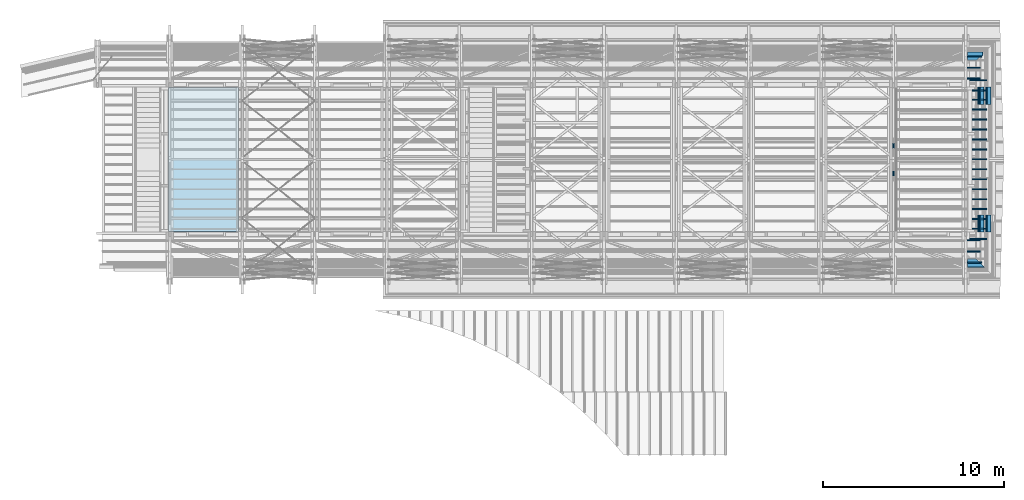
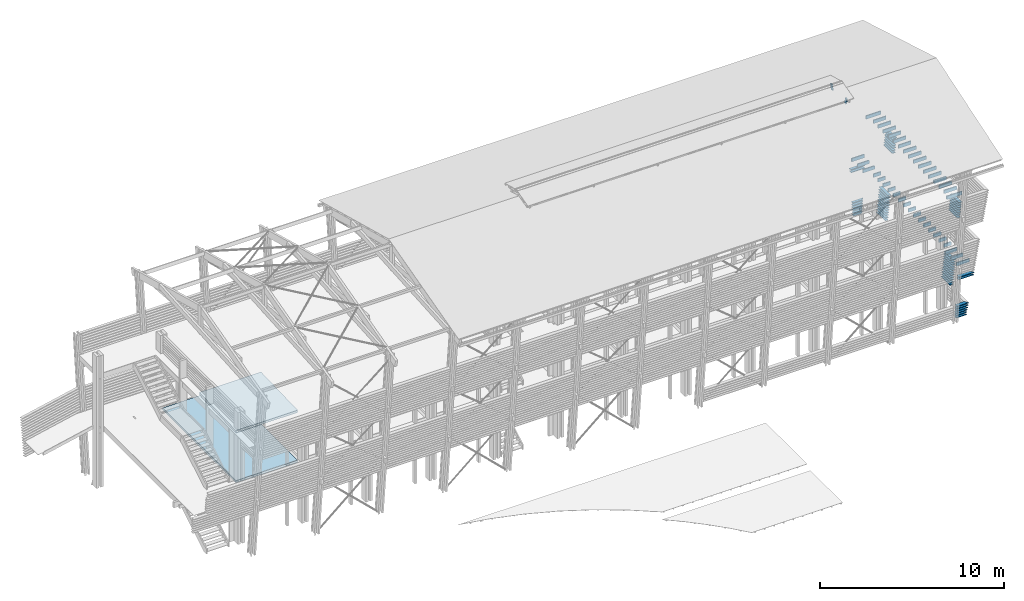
# One storey, part 30 of 48: 92 beams, 2 slabs.
"""IFC2X3 building model written with IfcOpenShell, lengths in metres."""

from ifc_helpers import new_model, si_unit, direction, frame, origin_with_axes, place, context, subcontext, project, spatial, faceted_brep, material, element, save


model = new_model("IFC2X3")

# Units and contexts
model_context = context("Model", 3, precision=1e-06, world=origin_with_axes(), true_north=direction((0.0, 1.0, 0.0)))
body_context = subcontext(model_context, "Body", "Model", "MODEL_VIEW")
ifc_project = project(units=[si_unit("LENGTHUNIT", "METRE"), si_unit("AREAUNIT", "SQUARE_METRE"), si_unit("VOLUMEUNIT", "CUBIC_METRE"), si_unit("PLANEANGLEUNIT", "RADIAN")], contexts=[model_context])

# Site, building, storey
site_placement = place(None, origin_with_axes())
site = spatial("IfcSite", under=ifc_project, at=site_placement, CompositionType="ELEMENT")
building_placement = place(site_placement, origin_with_axes())
building = spatial("IfcBuilding", under=site, at=building_placement, Name="Building 1", CompositionType="ELEMENT")
storey_placement = place(building_placement, origin_with_axes())
storey = spatial("IfcBuildingStorey", under=building, at=storey_placement, Name="Storey 1", CompositionType="ELEMENT", Elevation=0.0)

# Beams
ifc_material_1 = material(Name="Moabi")
beam_1_placement = place(storey_placement, frame((70.3884562, -185.2064881, 2.9410461), z_axis=(-0.9945219, 0.0, 0.1045285), x_axis=(0.0, -1.0, 0.0)))
element("IfcBeam", 1, at=beam_1_placement, inside=storey, material=ifc_material_1, Name="garde corp", context=body_context, shape_type="Brep", body=[
    faceted_brep([(0.9515817, 0.02, -0.1), (0.9515817, -0.02, -0.1), (0.0, -0.02, -0.1), (0.0, 0.02, -0.1), (0.9515817, -0.02, 0.1), (0.0, -0.02, 0.1), (0.9515817, 0.02, 0.1), (0.0, 0.02, 0.1)], [[[0, 1, 2, 3]], [[1, 4, 5, 2]], [[4, 6, 7, 5]], [[6, 0, 3, 7]], [[1, 0, 6, 4]], [[7, 3, 2, 5]]]),
])
ifc_material_2 = material(Name="GL28h")
beam_2_placement = place(storey_placement, frame((70.3711389, -194.898689, 4.139), z_axis=(0.0, 0.0, 1.0), x_axis=(-1.0, 0.0, 0.0)))
element("IfcBeam", 2, at=beam_2_placement, inside=storey, material=ifc_material_2, Name="Solive", context=body_context, shape_type="Brep", body=[
    faceted_brep([(0.8112891, 0.035, 0.11), (0.8112891, 0.035, -0.11), (0.0, 0.035, -0.11), (0.0, 0.035, 0.11), (0.8112891, -0.035, -0.11), (0.0, -0.035, -0.11), (0.8112891, -0.035, 0.11), (0.0, -0.035, 0.11)], [[[0, 1, 2, 3]], [[1, 4, 5, 2]], [[4, 6, 7, 5]], [[6, 0, 3, 7]], [[1, 0, 6, 4]], [[7, 3, 2, 5]]]),
])
beam_3_placement = place(storey_placement, frame((70.3011389, -185.8946519, 4.139), z_axis=(0.0, 0.0, 1.0), x_axis=(-1.0, 0.0, 0.0)))
element("IfcBeam", 3, at=beam_3_placement, inside=storey, material=ifc_material_2, Name="Solive", context=body_context, shape_type="Brep", body=[
    faceted_brep([(0.4613952, 0.035, 0.11), (0.4613952, 0.035, -0.11), (0.0, 0.035, -0.11), (0.0, 0.035, 0.11), (0.4613952, -0.035, -0.11), (0.0, -0.035, -0.11), (0.4613952, -0.035, 0.11), (0.0, -0.035, 0.11)], [[[0, 1, 2, 3]], [[1, 4, 5, 2]], [[4, 6, 7, 5]], [[6, 0, 3, 7]], [[1, 0, 6, 4]], [[7, 3, 2, 5]]]),
])
beam_4_placement = place(storey_placement, frame((70.2546598, -192.2580698, 1.6680127), z_axis=(-0.9945219, 0.0, 0.1045285), x_axis=(0.0, -1.0, 0.0)))
element("IfcBeam", 4, at=beam_4_placement, inside=storey, material=ifc_material_1, Name="garde corp", context=body_context, shape_type="Brep", body=[
    faceted_brep([(0.9515817, 0.02, -0.1), (0.9515817, -0.02, -0.1), (0.0, -0.02, -0.1), (0.0, 0.02, -0.1), (0.9515817, -0.02, 0.1), (0.0, -0.02, 0.1), (0.9515817, 0.02, 0.1), (0.0, 0.02, 0.1)], [[[0, 1, 2, 3]], [[1, 4, 5, 2]], [[4, 6, 7, 5]], [[6, 0, 3, 7]], [[1, 0, 6, 4]], [[7, 3, 2, 5]]]),
])
beam_5_placement = place(storey_placement, frame((70.3011389, -191.3946519, 4.139), z_axis=(0.0, 0.0, 1.0), x_axis=(-1.0, 0.0, 0.0)))
element("IfcBeam", 5, at=beam_5_placement, inside=storey, material=ifc_material_2, Name="Solive", context=body_context, shape_type="Brep", body=[
    faceted_brep([(0.4613952, 0.035, 0.11), (0.4613952, 0.035, -0.11), (0.0, 0.035, -0.11), (0.0, 0.035, 0.11), (0.4613952, -0.035, -0.11), (0.0, -0.035, -0.11), (0.4613952, -0.035, 0.11), (0.0, -0.035, 0.11)], [[[0, 1, 2, 3]], [[1, 4, 5, 2]], [[4, 6, 7, 5]], [[6, 0, 3, 7]], [[1, 0, 6, 4]], [[7, 3, 2, 5]]]),
])
for number, where, z_axis, x_axis, name in (
    (6, (70.3048334, -192.2580698, 2.1453832), (-0.9945219, 0.0, 0.1045285), (0.0, -1.0, 0.0), "garde corp"),
    (7, (70.2713843, -192.2580698, 1.8271362), (-0.9945219, 0.0, 0.1045285), (0.0, -1.0, 0.0), "garde corp"),
    (8, (70.7563964, -193.2096515, 6.4417178), (-0.9945219, 0.0, 0.1045285), (0.0, 1.0, 0.0), "garde corp"),
    (9, (70.7396718, -193.2096515, 6.2825943), (-0.9945219, 0.0, 0.1045285), (0.0, 1.0, 0.0), "garde corp"),
    (10, (70.7731209, -193.2096515, 6.6008413), (-0.9945219, 0.0, 0.1045285), (0.0, 1.0, 0.0), "garde corp"),
    (11, (70.6894982, -193.2096515, 5.8052238), (-0.9945219, 0.0, 0.1045285), (0.0, 1.0, 0.0), "garde corp"),
    (12, (70.7229473, -193.2096515, 6.1234708), (-0.9945219, 0.0, 0.1045285), (0.0, 1.0, 0.0), "garde corp"),
    (13, (70.3717316, -192.2580698, 2.7818772), (-0.9945219, 0.0, 0.1045285), (0.0, -1.0, 0.0), "garde corp"),
    (14, (70.321558, -192.2580698, 2.3045067), (-0.9945219, 0.0, 0.1045285), (0.0, -1.0, 0.0), "garde corp"),
    (15, (70.2881089, -192.2580698, 1.9862597), (-0.9945219, 0.0, 0.1045285), (0.0, -1.0, 0.0), "garde corp"),
    (16, (70.3550071, -192.2580698, 2.6227537), (-0.9945219, 0.0, 0.1045285), (0.0, -1.0, 0.0), "garde corp"),
    (17, (70.4051807, -192.2580698, 3.1001242), (-0.9945219, 0.0, 0.1045285), (0.0, -1.0, 0.0), "garde corp"),
    (18, (70.7062227, -193.2096515, 5.9643473), (-0.9945219, 0.0, 0.1045285), (0.0, 1.0, 0.0), "garde corp"),
):
    element("IfcBeam", number, at=place(storey_placement, frame(where, z_axis=z_axis, x_axis=x_axis)), inside=storey, material=ifc_material_1, Name=name, context=body_context, shape_type="Brep", body=[
        faceted_brep([(0.9515817, 0.02, -0.1), (0.9515817, -0.02, -0.1), (0.0, -0.02, -0.1), (0.0, 0.02, -0.1), (0.9515817, -0.02, 0.1), (0.0, -0.02, 0.1), (0.9515817, 0.02, 0.1), (0.0, 0.02, 0.1)], [[[0, 1, 2, 3]], [[1, 4, 5, 2]], [[4, 6, 7, 5]], [[6, 0, 3, 7]], [[1, 0, 6, 4]], [[7, 3, 2, 5]]]),
    ])
beam_6_placement = place(storey_placement, frame((70.2558552, -194.7763027, 0.7131627), z_axis=(0.0, 0.9945219, 0.1045285), x_axis=(-1.0, 0.0, 0.0)))
element("IfcBeam", 19, at=beam_6_placement, inside=storey, material=ifc_material_1, Name="garde corp", context=body_context, shape_type="Brep", body=[
    faceted_brep([(0.2030855, -0.02, 0.1), (0.1989044, 0.02, 0.1), (0.0, 0.02, -0.1), (0.0041811, -0.02, -0.1), (0.6843323, 0.02, 0.1), (0.6843323, 0.02, -0.1), (0.6843323, -0.02, 0.1), (0.6843323, -0.02, -0.1)], [[[0, 1, 2, 3]], [[2, 1, 4, 5]], [[1, 0, 6, 4]], [[0, 3, 7, 6]], [[3, 2, 5, 7]], [[7, 5, 4, 6]]]),
])
beam_7_placement = place(storey_placement, frame((70.3011389, -190.2946519, 4.139), z_axis=(0.0, 0.0, 1.0), x_axis=(-1.0, 0.0, 0.0)))
element("IfcBeam", 20, at=beam_7_placement, inside=storey, material=ifc_material_2, Name="Solive", context=body_context, shape_type="Brep", body=[
    faceted_brep([(0.4613952, 0.035, 0.11), (0.4613952, 0.035, -0.11), (0.0, 0.035, -0.11), (0.0, 0.035, 0.11), (0.4613952, -0.035, -0.11), (0.0, -0.035, -0.11), (0.4613952, -0.035, 0.11), (0.0, -0.035, 0.11)], [[[0, 1, 2, 3]], [[1, 4, 5, 2]], [[4, 6, 7, 5]], [[6, 0, 3, 7]], [[1, 0, 6, 4]], [[7, 3, 2, 5]]]),
])
beam_8_placement = place(storey_placement, frame((70.6436389, -193.0346519, 7.699), z_axis=(0.0, 0.0, 1.0), x_axis=(-1.0, 0.0, 0.0)))
element("IfcBeam", 21, at=beam_8_placement, inside=storey, material=ifc_material_2, Name="Solive", context=body_context, shape_type="Brep", body=[
    faceted_brep([(0.8038952, 0.035, 0.11), (0.8038952, 0.035, -0.11), (0.0, 0.035, -0.11), (0.0, 0.035, 0.11), (0.8038952, -0.035, -0.11), (0.0, -0.035, -0.11), (0.8038952, -0.035, 0.11), (0.0, -0.035, 0.11)], [[[0, 1, 2, 3]], [[1, 4, 5, 2]], [[4, 6, 7, 5]], [[6, 0, 3, 7]], [[1, 0, 6, 4]], [[7, 3, 2, 5]]]),
])
for number, where, z_axis, x_axis, name in (
    (22, (70.3048334, -185.2064881, 2.1454286), (-0.9945219, 0.0, 0.1045285), (0.0, -1.0, 0.0), "garde corp"),
    (23, (70.3550071, -185.2064881, 2.6227991), (-0.9945219, 0.0, 0.1045285), (0.0, -1.0, 0.0), "garde corp"),
    (24, (70.3717316, -185.2064881, 2.7819226), (-0.9945219, 0.0, 0.1045285), (0.0, -1.0, 0.0), "garde corp"),
    (25, (70.3382825, -185.2064881, 2.4636756), (-0.9945219, 0.0, 0.1045285), (0.0, -1.0, 0.0), "garde corp"),
    (26, (70.2713843, -185.2064881, 1.8271815), (-0.9945219, 0.0, 0.1045285), (0.0, -1.0, 0.0), "garde corp"),
    (27, (70.2881089, -185.2064881, 1.986305), (-0.9945219, 0.0, 0.1045285), (0.0, -1.0, 0.0), "garde corp"),
    (28, (70.2546598, -185.2064881, 1.668058), (-0.9945219, 0.0, 0.1045285), (0.0, -1.0, 0.0), "garde corp"),
    (29, (70.2379352, -185.2064881, 1.5089345), (-0.9945219, 0.0, 0.1045285), (0.0, -1.0, 0.0), "garde corp"),
    (30, (70.4051807, -185.2064881, 3.1001696), (-0.9945219, 0.0, 0.1045285), (0.0, -1.0, 0.0), "garde corp"),
    (31, (70.321558, -185.2064881, 2.3045521), (-0.9945219, 0.0, 0.1045285), (0.0, -1.0, 0.0), "garde corp"),
    (32, (70.7062227, -185.2064881, 5.9643926), (-0.9945219, 0.0, 0.1045285), (0.0, -1.0, 0.0), "garde corp"),
    (33, (70.6894982, -185.2064881, 5.8052691), (-0.9945219, 0.0, 0.1045285), (0.0, -1.0, 0.0), "garde corp"),
    (34, (70.7396718, -185.2064881, 6.2826396), (-0.9945219, 0.0, 0.1045285), (0.0, -1.0, 0.0), "garde corp"),
    (35, (70.7731209, -185.2064881, 6.6008866), (-0.9945219, 0.0, 0.1045285), (0.0, -1.0, 0.0), "garde corp"),
    (36, (70.7898455, -185.2064881, 6.7600101), (-0.9945219, 0.0, 0.1045285), (0.0, -1.0, 0.0), "garde corp"),
    (37, (70.7563964, -185.2064881, 6.4417631), (-0.9945219, 0.0, 0.1045285), (0.0, -1.0, 0.0), "garde corp"),
):
    element("IfcBeam", number, at=place(storey_placement, frame(where, z_axis=z_axis, x_axis=x_axis)), inside=storey, material=ifc_material_1, Name=name, context=body_context, shape_type="Brep", body=[
        faceted_brep([(0.9515817, 0.02, -0.1), (0.9515817, -0.02, -0.1), (0.0, -0.02, -0.1), (0.0, 0.02, -0.1), (0.9515817, -0.02, 0.1), (0.0, -0.02, 0.1), (0.9515817, 0.02, 0.1), (0.0, 0.02, 0.1)], [[[0, 1, 2, 3]], [[1, 4, 5, 2]], [[4, 6, 7, 5]], [[6, 0, 3, 7]], [[1, 0, 6, 4]], [[7, 3, 2, 5]]]),
    ])
beam_9_placement = place(storey_placement, frame((70.2558552, -183.6398368, 0.7131627), z_axis=(0.0, -0.9945219, 0.1045285), x_axis=(-1.0, 0.0, 0.0)))
element("IfcBeam", 38, at=beam_9_placement, inside=storey, material=ifc_material_1, Name="garde corp", context=body_context, shape_type="Brep", body=[
    faceted_brep([(0.0041811, 0.02, -0.1), (0.0, -0.02, -0.1), (0.1989044, -0.02, 0.1), (0.2030855, 0.02, 0.1), (0.6843323, -0.02, -0.1), (0.6843323, -0.02, 0.1), (0.6843323, 0.02, -0.1), (0.6843323, 0.02, 0.1)], [[[0, 1, 2, 3]], [[2, 1, 4, 5]], [[1, 0, 6, 4]], [[0, 3, 7, 6]], [[3, 2, 5, 7]], [[7, 5, 4, 6]]]),
])
beam_10_placement = place(storey_placement, frame((70.4484549, -183.3555194, 3.4182623), z_axis=(0.0, -0.9945219, 0.1045285), x_axis=(-1.0, 0.0, 0.0)))
element("IfcBeam", 39, at=beam_10_placement, inside=storey, material=ifc_material_1, Name="garde corp", context=body_context, shape_type="Brep", body=[
    faceted_brep([(0.876932, -0.02, 0.1), (0.876932, 0.02, 0.1), (0.0, 0.02, 0.1), (0.0, -0.02, 0.1), (0.876932, 0.02, -0.1), (0.0, 0.02, -0.1), (0.876932, -0.02, -0.1), (0.0, -0.02, -0.1)], [[[0, 1, 2, 3]], [[1, 4, 5, 2]], [[4, 6, 7, 5]], [[6, 0, 3, 7]], [[1, 0, 6, 4]], [[7, 3, 2, 5]]]),
])
beam_11_placement = place(storey_placement, frame((70.5234481, -195.0438956, 3.2591388), z_axis=(0.0, 0.9945219, 0.1045285), x_axis=(-1.0, 0.0, 0.0)))
element("IfcBeam", 40, at=beam_11_placement, inside=storey, material=ifc_material_1, Name="garde corp", context=body_context, shape_type="Brep", body=[
    faceted_brep([(0.2030855, -0.02, 0.1), (0.1989044, 0.02, 0.1), (0.0, 0.02, -0.1), (0.0041811, -0.02, -0.1), (0.9519252, 0.02, 0.1), (0.9519252, 0.02, -0.1), (0.9519252, -0.02, 0.1), (0.9519252, -0.02, -0.1)], [[[0, 1, 2, 3]], [[2, 1, 4, 5]], [[1, 0, 6, 4]], [[0, 3, 7, 6]], [[3, 2, 5, 7]], [[7, 5, 4, 6]]]),
])
beam_12_placement = place(storey_placement, frame((70.4249086, -183.3722439, 3.2591388), z_axis=(0.0, -0.9945219, 0.1045285), x_axis=(-1.0, 0.0, 0.0)))
element("IfcBeam", 41, at=beam_12_placement, inside=storey, material=ifc_material_1, Name="garde corp", context=body_context, shape_type="Brep", body=[
    faceted_brep([(0.8533857, -0.02, 0.1), (0.8533857, 0.02, 0.1), (0.0, 0.02, 0.1), (0.0, -0.02, 0.1), (0.8533857, 0.02, -0.1), (0.0, 0.02, -0.1), (0.8533857, -0.02, -0.1), (0.0, -0.02, -0.1)], [[[0, 1, 2, 3]], [[1, 4, 5, 2]], [[4, 6, 7, 5]], [[6, 0, 3, 7]], [[1, 0, 6, 4]], [[7, 3, 2, 5]]]),
])
beam_13_placement = place(storey_placement, frame((70.5401726, -195.0606202, 3.4182623), z_axis=(0.0, 0.9945219, 0.1045285), x_axis=(-1.0, 0.0, 0.0)))
element("IfcBeam", 42, at=beam_13_placement, inside=storey, material=ifc_material_1, Name="garde corp", context=body_context, shape_type="Brep", body=[
    faceted_brep([(0.2030855, -0.02, 0.1), (0.1989044, 0.02, 0.1), (0.0, 0.02, -0.1), (0.0041811, -0.02, -0.1), (0.9686497, 0.02, 0.1), (0.9686497, 0.02, -0.1), (0.9686497, -0.02, 0.1), (0.9686497, -0.02, -0.1)], [[[0, 1, 2, 3]], [[2, 1, 4, 5]], [[1, 0, 6, 4]], [[0, 3, 7, 6]], [[3, 2, 5, 7]], [[7, 5, 4, 6]]]),
])
beam_14_placement = place(storey_placement, frame((70.3060289, -194.8264764, 1.1905332), z_axis=(0.0, 0.9945219, 0.1045285), x_axis=(-1.0, 0.0, 0.0)))
element("IfcBeam", 43, at=beam_14_placement, inside=storey, material=ifc_material_1, Name="garde corp", context=body_context, shape_type="Brep", body=[
    faceted_brep([(0.2030855, -0.02, 0.1), (0.1989044, 0.02, 0.1), (0.0, 0.02, -0.1), (0.0041811, -0.02, -0.1), (0.734506, 0.02, 0.1), (0.734506, 0.02, -0.1), (0.734506, -0.02, 0.1), (0.734506, -0.02, -0.1)], [[[0, 1, 2, 3]], [[2, 1, 4, 5]], [[1, 0, 6, 4]], [[0, 3, 7, 6]], [[3, 2, 5, 7]], [[7, 5, 4, 6]]]),
])
beam_15_placement = place(storey_placement, frame((70.2391306, -194.7595782, 0.5540392), z_axis=(0.0, 0.9945219, 0.1045285), x_axis=(-1.0, 0.0, 0.0)))
element("IfcBeam", 44, at=beam_15_placement, inside=storey, material=ifc_material_1, Name="garde corp", context=body_context, shape_type="Brep", body=[
    faceted_brep([(0.2030855, -0.02, 0.1), (0.1989044, 0.02, 0.1), (0.0, 0.02, -0.1), (0.0041811, -0.02, -0.1), (0.6676077, 0.02, 0.1), (0.6676077, 0.02, -0.1), (0.6676077, -0.02, 0.1), (0.6676077, -0.02, -0.1)], [[[0, 1, 2, 3]], [[2, 1, 4, 5]], [[1, 0, 6, 4]], [[0, 3, 7, 6]], [[3, 2, 5, 7]], [[7, 5, 4, 6]]]),
])
beam_16_placement = place(storey_placement, frame((70.2725797, -194.7930273, 0.8722862), z_axis=(0.0, 0.9945219, 0.1045285), x_axis=(-1.0, 0.0, 0.0)))
element("IfcBeam", 45, at=beam_16_placement, inside=storey, material=ifc_material_1, Name="garde corp", context=body_context, shape_type="Brep", body=[
    faceted_brep([(0.2030855, -0.02, 0.1), (0.1989044, 0.02, 0.1), (0.0, 0.02, -0.1), (0.0041811, -0.02, -0.1), (0.7010569, 0.02, 0.1), (0.7010569, 0.02, -0.1), (0.7010569, -0.02, 0.1), (0.7010569, -0.02, -0.1)], [[[0, 1, 2, 3]], [[2, 1, 4, 5]], [[1, 0, 6, 4]], [[0, 3, 7, 6]], [[3, 2, 5, 7]], [[7, 5, 4, 6]]]),
])
beam_17_placement = place(storey_placement, frame((70.3060289, -183.5896631, 1.1905332), z_axis=(0.0, -0.9945219, 0.1045285), x_axis=(-1.0, 0.0, 0.0)))
element("IfcBeam", 46, at=beam_17_placement, inside=storey, material=ifc_material_1, Name="garde corp", context=body_context, shape_type="Brep", body=[
    faceted_brep([(0.0041811, 0.02, -0.1), (0.0, -0.02, -0.1), (0.1989044, -0.02, 0.1), (0.2030855, 0.02, 0.1), (0.734506, -0.02, -0.1), (0.734506, -0.02, 0.1), (0.734506, 0.02, -0.1), (0.734506, 0.02, 0.1)], [[[0, 1, 2, 3]], [[2, 1, 4, 5]], [[1, 0, 6, 4]], [[0, 3, 7, 6]], [[3, 2, 5, 7]], [[7, 5, 4, 6]]]),
])
beam_18_placement = place(storey_placement, frame((70.7229473, -185.2064881, 6.1235161), z_axis=(-0.9945219, 0.0, 0.1045285), x_axis=(0.0, -1.0, 0.0)))
element("IfcBeam", 47, at=beam_18_placement, inside=storey, material=ifc_material_1, Name="garde corp", context=body_context, shape_type="Brep", body=[
    faceted_brep([(0.9515817, 0.02, -0.1), (0.9515817, -0.02, -0.1), (0.0, -0.02, -0.1), (0.0, 0.02, -0.1), (0.9515817, -0.02, 0.1), (0.0, -0.02, 0.1), (0.9515817, 0.02, 0.1), (0.0, 0.02, 0.1)], [[[0, 1, 2, 3]], [[1, 4, 5, 2]], [[4, 6, 7, 5]], [[6, 0, 3, 7]], [[1, 0, 6, 4]], [[7, 3, 2, 5]]]),
])
beam_19_placement = place(storey_placement, frame((70.3227534, -194.843201, 1.3496567), z_axis=(0.0, 0.9945219, 0.1045285), x_axis=(-1.0, 0.0, 0.0)))
element("IfcBeam", 48, at=beam_19_placement, inside=storey, material=ifc_material_1, Name="garde corp", context=body_context, shape_type="Brep", body=[
    faceted_brep([(0.2030855, -0.02, 0.1), (0.1989044, 0.02, 0.1), (0.0, 0.02, -0.1), (0.0041811, -0.02, -0.1), (0.7512305, 0.02, 0.1), (0.7512305, 0.02, -0.1), (0.7512305, -0.02, 0.1), (0.7512305, -0.02, -0.1)], [[[0, 1, 2, 3]], [[2, 1, 4, 5]], [[1, 0, 6, 4]], [[0, 3, 7, 6]], [[3, 2, 5, 7]], [[7, 5, 4, 6]]]),
])
beam_20_placement = place(storey_placement, frame((70.3011389, -193.0346519, 4.139), z_axis=(0.0, 0.0, 1.0), x_axis=(-1.0, 0.0, 0.0)))
element("IfcBeam", 49, at=beam_20_placement, inside=storey, material=ifc_material_2, Name="Solive", context=body_context, shape_type="Brep", body=[
    faceted_brep([(0.4613952, 0.035, 0.11), (0.4613952, 0.035, -0.11), (0.0, 0.035, -0.11), (0.0, 0.035, 0.11), (0.4613952, -0.035, -0.11), (0.0, -0.035, -0.11), (0.4613952, -0.035, 0.11), (0.0, -0.035, 0.11)], [[[0, 1, 2, 3]], [[1, 4, 5, 2]], [[4, 6, 7, 5]], [[6, 0, 3, 7]], [[1, 0, 6, 4]], [[7, 3, 2, 5]]]),
])
beam_21_placement = place(storey_placement, frame((70.3227534, -183.5729386, 1.3496567), z_axis=(0.0, -0.9945219, 0.1045285), x_axis=(-1.0, 0.0, 0.0)))
element("IfcBeam", 50, at=beam_21_placement, inside=storey, material=ifc_material_1, Name="garde corp", context=body_context, shape_type="Brep", body=[
    faceted_brep([(0.0041811, 0.02, -0.1), (0.0, -0.02, -0.1), (0.1989044, -0.02, 0.1), (0.2030855, 0.02, 0.1), (0.7512305, -0.02, -0.1), (0.7512305, -0.02, 0.1), (0.7512305, 0.02, -0.1), (0.7512305, 0.02, 0.1)], [[[0, 1, 2, 3]], [[2, 1, 4, 5]], [[1, 0, 6, 4]], [[0, 3, 7, 6]], [[3, 2, 5, 7]], [[7, 5, 4, 6]]]),
])
beam_22_placement = place(storey_placement, frame((70.2893043, -194.8097519, 1.0314097), z_axis=(0.0, 0.9945219, 0.1045285), x_axis=(-1.0, 0.0, 0.0)))
element("IfcBeam", 51, at=beam_22_placement, inside=storey, material=ifc_material_1, Name="garde corp", context=body_context, shape_type="Brep", body=[
    faceted_brep([(0.2030855, -0.02, 0.1), (0.1989044, 0.02, 0.1), (0.0, 0.02, -0.1), (0.0041811, -0.02, -0.1), (0.7177814, 0.02, 0.1), (0.7177814, 0.02, -0.1), (0.7177814, -0.02, 0.1), (0.7177814, -0.02, -0.1)], [[[0, 1, 2, 3]], [[2, 1, 4, 5]], [[1, 0, 6, 4]], [[0, 3, 7, 6]], [[3, 2, 5, 7]], [[7, 5, 4, 6]]]),
])
beam_23_placement = place(storey_placement, frame((70.2725797, -183.6231123, 0.8722862), z_axis=(0.0, -0.9945219, 0.1045285), x_axis=(-1.0, 0.0, 0.0)))
element("IfcBeam", 52, at=beam_23_placement, inside=storey, material=ifc_material_1, Name="garde corp", context=body_context, shape_type="Brep", body=[
    faceted_brep([(0.0041811, 0.02, -0.1), (0.0, -0.02, -0.1), (0.1989044, -0.02, 0.1), (0.2030855, 0.02, 0.1), (0.7010569, -0.02, -0.1), (0.7010569, -0.02, 0.1), (0.7010569, 0.02, -0.1), (0.7010569, 0.02, 0.1)], [[[0, 1, 2, 3]], [[2, 1, 4, 5]], [[1, 0, 6, 4]], [[0, 3, 7, 6]], [[3, 2, 5, 7]], [[7, 5, 4, 6]]]),
])
for number, where, z_axis, x_axis, name in (
    (53, (70.3884562, -192.2580698, 2.9410007), (-0.9945219, 0.0, 0.1045285), (0.0, -1.0, 0.0), "garde corp"),
    (54, (70.2379352, -192.2580698, 1.5088892), (-0.9945219, 0.0, 0.1045285), (0.0, -1.0, 0.0), "garde corp"),
    (55, (70.7898455, -192.2580698, 6.7599648), (-0.9945219, 0.0, 0.1045285), (0.0, -1.0, 0.0), "garde corp"),
    (56, (70.3382825, -192.2580698, 2.4636302), (-0.9945219, 0.0, 0.1045285), (0.0, -1.0, 0.0), "garde corp"),
):
    element("IfcBeam", number, at=place(storey_placement, frame(where, z_axis=z_axis, x_axis=x_axis)), inside=storey, material=ifc_material_1, Name=name, context=body_context, shape_type="Brep", body=[
        faceted_brep([(0.9515817, 0.02, -0.1), (0.9515817, -0.02, -0.1), (0.0, -0.02, -0.1), (0.0, 0.02, -0.1), (0.9515817, -0.02, 0.1), (0.0, -0.02, 0.1), (0.9515817, 0.02, 0.1), (0.0, 0.02, 0.1)], [[[0, 1, 2, 3]], [[1, 4, 5, 2]], [[4, 6, 7, 5]], [[6, 0, 3, 7]], [[1, 0, 6, 4]], [[7, 3, 2, 5]]]),
    ])
beam_24_placement = place(storey_placement, frame((70.2893043, -183.6063877, 1.0314097), z_axis=(0.0, -0.9945219, 0.1045285), x_axis=(-1.0, 0.0, 0.0)))
element("IfcBeam", 57, at=beam_24_placement, inside=storey, material=ifc_material_1, Name="garde corp", context=body_context, shape_type="Brep", body=[
    faceted_brep([(0.0041811, 0.02, -0.1), (0.0, -0.02, -0.1), (0.1989044, -0.02, 0.1), (0.2030855, 0.02, 0.1), (0.7177814, -0.02, -0.1), (0.7177814, -0.02, 0.1), (0.7177814, 0.02, -0.1), (0.7177814, 0.02, 0.1)], [[[0, 1, 2, 3]], [[2, 1, 4, 5]], [[1, 0, 6, 4]], [[0, 3, 7, 6]], [[3, 2, 5, 7]], [[7, 5, 4, 6]]]),
])
for number, where, z_axis, x_axis in (
    (58, (70.3011389, -186.4446519, 4.139), (0.0, 0.0, 1.0), (-1.0, 0.0, 0.0)),
    (59, (70.3011389, -188.0946519, 4.139), (0.0, 0.0, 1.0), (-1.0, 0.0, 0.0)),
):
    element("IfcBeam", number, at=place(storey_placement, frame(where, z_axis=z_axis, x_axis=x_axis)), inside=storey, material=ifc_material_2, Name="Solive", context=body_context, shape_type="Brep", body=[
        faceted_brep([(0.4613952, 0.035, 0.11), (0.4613952, 0.035, -0.11), (0.0, 0.035, -0.11), (0.0, 0.035, 0.11), (0.4613952, -0.035, -0.11), (0.0, -0.035, -0.11), (0.4613952, -0.035, 0.11), (0.0, -0.035, 0.11)], [[[0, 1, 2, 3]], [[1, 4, 5, 2]], [[4, 6, 7, 5]], [[6, 0, 3, 7]], [[1, 0, 6, 4]], [[7, 3, 2, 5]]]),
    ])
beam_25_placement = place(storey_placement, frame((70.6436389, -193.5946515, 7.699), z_axis=(0.0, 0.0, 1.0), x_axis=(-1.0, 0.0, 0.0)))
element("IfcBeam", 60, at=beam_25_placement, inside=storey, material=ifc_material_2, Name="Solive", context=body_context, shape_type="Brep", body=[
    faceted_brep([(0.9437891, 0.035, 0.11), (0.9437891, 0.035, -0.11), (0.0, 0.035, -0.11), (0.0, 0.035, 0.11), (0.9437891, -0.035, -0.11), (0.0, -0.035, -0.11), (0.9437891, -0.035, 0.11), (0.0, -0.035, 0.11)], [[[0, 1, 2, 3]], [[1, 4, 5, 2]], [[4, 6, 7, 5]], [[6, 0, 3, 7]], [[1, 0, 6, 4]], [[7, 3, 2, 5]]]),
])
beam_26_placement = place(storey_placement, frame((65.4897437, -189.9293315, 13.2180038), z_axis=(0.0, 0.9659258, 0.2588191), x_axis=(0.0, -0.2588191, 0.9659258)))
element("IfcBeam", 61, at=beam_26_placement, inside=storey, material=ifc_material_2, Name="potelet", context=body_context, shape_type="Brep", body=[
    faceted_brep([(0.38, -0.035, 0.084), (0.38, 0.035, 0.084), (0.0, 0.035, 0.084), (0.0, -0.035, 0.084), (0.38, 0.035, -0.084), (0.0, 0.035, -0.084), (0.38, -0.035, -0.084), (0.0, -0.035, -0.084)], [[[0, 1, 2, 3]], [[1, 4, 5, 2]], [[4, 6, 7, 5]], [[6, 0, 3, 7]], [[1, 0, 6, 4]], [[7, 3, 2, 5]]]),
])
beam_27_placement = place(storey_placement, frame((70.6436389, -191.3946519, 7.699), z_axis=(0.0, 0.0, 1.0), x_axis=(-1.0, 0.0, 0.0)))
element("IfcBeam", 62, at=beam_27_placement, inside=storey, material=ifc_material_2, Name="Solive", context=body_context, shape_type="Brep", body=[
    faceted_brep([(0.8038952, 0.035, 0.11), (0.8038952, 0.035, -0.11), (0.0, 0.035, -0.11), (0.0, 0.035, 0.11), (0.8038952, -0.035, -0.11), (0.0, -0.035, -0.11), (0.8038952, -0.035, 0.11), (0.0, -0.035, 0.11)], [[[0, 1, 2, 3]], [[1, 4, 5, 2]], [[4, 6, 7, 5]], [[6, 0, 3, 7]], [[1, 0, 6, 4]], [[7, 3, 2, 5]]]),
])
beam_28_placement = place(storey_placement, frame((70.2391306, -183.6565614, 0.5540392), z_axis=(0.0, -0.9945219, 0.1045285), x_axis=(-1.0, 0.0, 0.0)))
element("IfcBeam", 63, at=beam_28_placement, inside=storey, material=ifc_material_1, Name="garde corp", context=body_context, shape_type="Brep", body=[
    faceted_brep([(0.0041811, 0.02, -0.1), (0.0, -0.02, -0.1), (0.1989044, -0.02, 0.1), (0.2030855, 0.02, 0.1), (0.6676077, -0.02, -0.1), (0.6676077, -0.02, 0.1), (0.6676077, 0.02, -0.1), (0.6676077, 0.02, 0.1)], [[[0, 1, 2, 3]], [[2, 1, 4, 5]], [[1, 0, 6, 4]], [[0, 3, 7, 6]], [[3, 2, 5, 7]], [[7, 5, 4, 6]]]),
])
beam_29_placement = place(storey_placement, frame((70.3011389, -189.1946519, 4.139), z_axis=(0.0, 0.0, 1.0), x_axis=(-1.0, 0.0, 0.0)))
element("IfcBeam", 64, at=beam_29_placement, inside=storey, material=ifc_material_2, Name="Solive", context=body_context, shape_type="Brep", body=[
    faceted_brep([(0.4613952, 0.035, 0.11), (0.4613952, 0.035, -0.11), (0.0, 0.035, -0.11), (0.0, 0.035, 0.11), (0.4613952, -0.035, -0.11), (0.0, -0.035, -0.11), (0.4613952, -0.035, 0.11), (0.0, -0.035, 0.11)], [[[0, 1, 2, 3]], [[1, 4, 5, 2]], [[4, 6, 7, 5]], [[6, 0, 3, 7]], [[1, 0, 6, 4]], [[7, 3, 2, 5]]]),
])
for number, where, z_axis, x_axis in (
    (65, (70.3011389, -193.6646515, 4.139), (0.0, 0.0, 1.0), (-1.0, 0.0, 0.0)),
    (66, (70.3011389, -184.7314881, 4.139), (0.0, 0.0, 1.0), (-1.0, 0.0, 0.0)),
):
    element("IfcBeam", number, at=place(storey_placement, frame(where, z_axis=z_axis, x_axis=x_axis)), inside=storey, material=ifc_material_2, Name="Solive", context=body_context, shape_type="Brep", body=[
        faceted_brep([(0.7413952, 0.035, 0.11), (0.7413952, 0.035, -0.11), (0.0, 0.035, -0.11), (0.0, 0.035, 0.11), (0.7413952, -0.035, -0.11), (0.0, -0.035, -0.11), (0.7413952, -0.035, 0.11), (0.0, -0.035, 0.11)], [[[0, 1, 2, 3]], [[1, 4, 5, 2]], [[4, 6, 7, 5]], [[6, 0, 3, 7]], [[1, 0, 6, 4]], [[7, 3, 2, 5]]]),
    ])
beam_30_placement = place(storey_placement, frame((70.6436389, -184.8214881, 7.699), z_axis=(0.0, 0.0, 1.0), x_axis=(-1.0, 0.0, 0.0)))
element("IfcBeam", 67, at=beam_30_placement, inside=storey, material=ifc_material_2, Name="Solive", context=body_context, shape_type="Brep", body=[
    faceted_brep([(0.9437891, 0.035, 0.11), (0.9437891, 0.035, -0.11), (0.0, 0.035, -0.11), (0.0, 0.035, 0.11), (0.9437891, -0.035, -0.11), (0.0, -0.035, -0.11), (0.9437891, -0.035, 0.11), (0.0, -0.035, 0.11)], [[[0, 1, 2, 3]], [[1, 4, 5, 2]], [[4, 6, 7, 5]], [[6, 0, 3, 7]], [[1, 0, 6, 4]], [[7, 3, 2, 5]]]),
])
for number, where, z_axis, x_axis in (
    (68, (70.3011389, -192.4946519, 4.139), (0.0, 0.0, 1.0), (-1.0, 0.0, 0.0)),
    (69, (70.3011389, -191.9446519, 4.139), (0.0, 0.0, 1.0), (-1.0, 0.0, 0.0)),
    (70, (70.3011389, -188.6446519, 4.139), (0.0, 0.0, 1.0), (-1.0, 0.0, 0.0)),
    (71, (70.3011389, -189.7446519, 4.139), (0.0, 0.0, 1.0), (-1.0, 0.0, 0.0)),
    (72, (70.3011389, -190.8446519, 4.139), (0.0, 0.0, 1.0), (-1.0, 0.0, 0.0)),
):
    element("IfcBeam", number, at=place(storey_placement, frame(where, z_axis=z_axis, x_axis=x_axis)), inside=storey, material=ifc_material_2, Name="Solive", context=body_context, shape_type="Brep", body=[
        faceted_brep([(0.4613952, 0.035, 0.11), (0.4613952, 0.035, -0.11), (0.0, 0.035, -0.11), (0.0, 0.035, 0.11), (0.4613952, -0.035, -0.11), (0.0, -0.035, -0.11), (0.4613952, -0.035, 0.11), (0.0, -0.035, 0.11)], [[[0, 1, 2, 3]], [[1, 4, 5, 2]], [[4, 6, 7, 5]], [[6, 0, 3, 7]], [[1, 0, 6, 4]], [[7, 3, 2, 5]]]),
    ])
for number, where, z_axis, x_axis in (
    (73, (70.6436389, -190.2946519, 7.699), (0.0, 0.0, 1.0), (-1.0, 0.0, 0.0)),
    (74, (70.6436389, -185.8946519, 7.699), (0.0, 0.0, 1.0), (-1.0, 0.0, 0.0)),
):
    element("IfcBeam", number, at=place(storey_placement, frame(where, z_axis=z_axis, x_axis=x_axis)), inside=storey, material=ifc_material_2, Name="Solive", context=body_context, shape_type="Brep", body=[
        faceted_brep([(0.8038952, 0.035, 0.11), (0.8038952, 0.035, -0.11), (0.0, 0.035, -0.11), (0.0, 0.035, 0.11), (0.8038952, -0.035, -0.11), (0.0, -0.035, -0.11), (0.8038952, -0.035, 0.11), (0.0, -0.035, 0.11)], [[[0, 1, 2, 3]], [[1, 4, 5, 2]], [[4, 6, 7, 5]], [[6, 0, 3, 7]], [[1, 0, 6, 4]], [[7, 3, 2, 5]]]),
    ])
beam_31_placement = place(storey_placement, frame((65.4897437, -188.4867808, 13.2181055), z_axis=(0.0, -0.9659258, 0.2588191), x_axis=(0.0, 0.2588191, 0.9659258)))
element("IfcBeam", 75, at=beam_31_placement, inside=storey, material=ifc_material_2, Name="potelet", context=body_context, shape_type="Brep", body=[
    faceted_brep([(0.38, -0.035, 0.084), (0.38, 0.035, 0.084), (0.0, 0.035, 0.084), (0.0, -0.035, 0.084), (0.38, 0.035, -0.084), (0.0, 0.035, -0.084), (0.38, -0.035, -0.084), (0.0, -0.035, -0.084)], [[[0, 1, 2, 3]], [[1, 4, 5, 2]], [[4, 6, 7, 5]], [[6, 0, 3, 7]], [[1, 0, 6, 4]], [[7, 3, 2, 5]]]),
])
beam_32_placement = place(storey_placement, frame((70.3011389, -187.5446519, 4.139), z_axis=(0.0, 0.0, 1.0), x_axis=(-1.0, 0.0, 0.0)))
element("IfcBeam", 76, at=beam_32_placement, inside=storey, material=ifc_material_2, Name="Solive", context=body_context, shape_type="Brep", body=[
    faceted_brep([(0.4613952, 0.035, 0.11), (0.4613952, 0.035, -0.11), (0.0, 0.035, -0.11), (0.0, 0.035, 0.11), (0.4613952, -0.035, -0.11), (0.0, -0.035, -0.11), (0.4613952, -0.035, 0.11), (0.0, -0.035, 0.11)], [[[0, 1, 2, 3]], [[1, 4, 5, 2]], [[4, 6, 7, 5]], [[6, 0, 3, 7]], [[1, 0, 6, 4]], [[7, 3, 2, 5]]]),
])
beam_33_placement = place(storey_placement, frame((70.6436389, -191.9446519, 7.699), z_axis=(0.0, 0.0, 1.0), x_axis=(-1.0, 0.0, 0.0)))
element("IfcBeam", 77, at=beam_33_placement, inside=storey, material=ifc_material_2, Name="Solive", context=body_context, shape_type="Brep", body=[
    faceted_brep([(0.8038952, 0.035, 0.11), (0.8038952, 0.035, -0.11), (0.0, 0.035, -0.11), (0.0, 0.035, 0.11), (0.8038952, -0.035, -0.11), (0.0, -0.035, -0.11), (0.8038952, -0.035, 0.11), (0.0, -0.035, 0.11)], [[[0, 1, 2, 3]], [[1, 4, 5, 2]], [[4, 6, 7, 5]], [[6, 0, 3, 7]], [[1, 0, 6, 4]], [[7, 3, 2, 5]]]),
])
for number, where, z_axis, x_axis in (
    (78, (70.3011389, -185.3819004, 4.139), (0.0, 0.0, 1.0), (-1.0, 0.0, 0.0)),
    (79, (70.3011389, -186.9946519, 4.139), (0.0, 0.0, 1.0), (-1.0, 0.0, 0.0)),
):
    element("IfcBeam", number, at=place(storey_placement, frame(where, z_axis=z_axis, x_axis=x_axis)), inside=storey, material=ifc_material_2, Name="Solive", context=body_context, shape_type="Brep", body=[
        faceted_brep([(0.4613952, 0.035, 0.11), (0.4613952, 0.035, -0.11), (0.0, 0.035, -0.11), (0.0, 0.035, 0.11), (0.4613952, -0.035, -0.11), (0.0, -0.035, -0.11), (0.4613952, -0.035, 0.11), (0.0, -0.035, 0.11)], [[[0, 1, 2, 3]], [[1, 4, 5, 2]], [[4, 6, 7, 5]], [[6, 0, 3, 7]], [[1, 0, 6, 4]], [[7, 3, 2, 5]]]),
    ])
beam_34_placement = place(storey_placement, frame((70.6436389, -190.8446519, 7.699), z_axis=(0.0, 0.0, 1.0), x_axis=(-1.0, 0.0, 0.0)))
element("IfcBeam", 80, at=beam_34_placement, inside=storey, material=ifc_material_2, Name="Solive", context=body_context, shape_type="Brep", body=[
    faceted_brep([(0.8038952, 0.035, 0.11), (0.8038952, 0.035, -0.11), (0.0, 0.035, -0.11), (0.0, 0.035, 0.11), (0.8038952, -0.035, -0.11), (0.0, -0.035, -0.11), (0.8038952, -0.035, 0.11), (0.0, -0.035, 0.11)], [[[0, 1, 2, 3]], [[1, 4, 5, 2]], [[4, 6, 7, 5]], [[6, 0, 3, 7]], [[1, 0, 6, 4]], [[7, 3, 2, 5]]]),
])
beam_35_placement = place(storey_placement, frame((70.3010328, -194.2816702, 4.139), z_axis=(0.0, 0.0, 1.0), x_axis=(-1.0, 0.0, 0.0)))
element("IfcBeam", 81, at=beam_35_placement, inside=storey, material=ifc_material_2, Name="Solive", context=body_context, shape_type="Brep", body=[
    faceted_brep([(0.7411829, 0.035, 0.11), (0.7411829, 0.035, -0.11), (0.0, 0.035, -0.11), (0.0, 0.035, 0.11), (0.7411829, -0.035, -0.11), (0.0, -0.035, -0.11), (0.7411829, -0.035, 0.11), (0.0, -0.035, 0.11)], [[[0, 1, 2, 3]], [[1, 4, 5, 2]], [[4, 6, 7, 5]], [[6, 0, 3, 7]], [[1, 0, 6, 4]], [[7, 3, 2, 5]]]),
])
beam_36_placement = place(storey_placement, frame((70.6436389, -189.7446519, 7.699), z_axis=(0.0, 0.0, 1.0), x_axis=(-1.0, 0.0, 0.0)))
element("IfcBeam", 82, at=beam_36_placement, inside=storey, material=ifc_material_2, Name="Solive", context=body_context, shape_type="Brep", body=[
    faceted_brep([(0.8038952, 0.035, 0.11), (0.8038952, 0.035, -0.11), (0.0, 0.035, -0.11), (0.0, 0.035, 0.11), (0.8038952, -0.035, -0.11), (0.0, -0.035, -0.11), (0.8038952, -0.035, 0.11), (0.0, -0.035, 0.11)], [[[0, 1, 2, 3]], [[1, 4, 5, 2]], [[4, 6, 7, 5]], [[6, 0, 3, 7]], [[1, 0, 6, 4]], [[7, 3, 2, 5]]]),
])
beam_37_placement = place(storey_placement, frame((70.3711389, -183.5174506, 4.139), z_axis=(0.0, 0.0, 1.0), x_axis=(-1.0, 0.0, 0.0)))
element("IfcBeam", 83, at=beam_37_placement, inside=storey, material=ifc_material_2, Name="Solive", context=body_context, shape_type="Brep", body=[
    faceted_brep([(0.8112891, 0.035, 0.11), (0.8112891, 0.035, -0.11), (0.0, 0.035, -0.11), (0.0, 0.035, 0.11), (0.8112891, -0.035, -0.11), (0.0, -0.035, -0.11), (0.8112891, -0.035, 0.11), (0.0, -0.035, 0.11)], [[[0, 1, 2, 3]], [[1, 4, 5, 2]], [[4, 6, 7, 5]], [[6, 0, 3, 7]], [[1, 0, 6, 4]], [[7, 3, 2, 5]]]),
])
beam_38_placement = place(storey_placement, frame((70.3011389, -184.1344693, 4.139), z_axis=(0.0, 0.0, 1.0), x_axis=(-1.0, 0.0, 0.0)))
element("IfcBeam", 84, at=beam_38_placement, inside=storey, material=ifc_material_2, Name="Solive", context=body_context, shape_type="Brep", body=[
    faceted_brep([(0.7412891, 0.035, 0.11), (0.7412891, 0.035, -0.11), (0.0, 0.035, -0.11), (0.0, 0.035, 0.11), (0.7412891, -0.035, -0.11), (0.0, -0.035, -0.11), (0.7412891, -0.035, 0.11), (0.0, -0.035, 0.11)], [[[0, 1, 2, 3]], [[1, 4, 5, 2]], [[4, 6, 7, 5]], [[6, 0, 3, 7]], [[1, 0, 6, 4]], [[7, 3, 2, 5]]]),
])
for number, where, z_axis, x_axis in (
    (85, (70.6436389, -188.0946519, 7.699), (0.0, 0.0, 1.0), (-1.0, 0.0, 0.0)),
    (86, (70.6436389, -192.4946519, 7.699), (0.0, 0.0, 1.0), (-1.0, 0.0, 0.0)),
    (87, (70.6436389, -186.4446519, 7.699), (0.0, 0.0, 1.0), (-1.0, 0.0, 0.0)),
    (88, (70.6436389, -189.1946519, 7.699), (0.0, 0.0, 1.0), (-1.0, 0.0, 0.0)),
    (89, (70.6436389, -186.9946519, 7.699), (0.0, 0.0, 1.0), (-1.0, 0.0, 0.0)),
    (90, (70.6436389, -188.6446519, 7.699), (0.0, 0.0, 1.0), (-1.0, 0.0, 0.0)),
    (91, (70.6436389, -185.3819004, 7.699), (0.0, 0.0, 1.0), (-1.0, 0.0, 0.0)),
    (92, (70.6436389, -187.5446519, 7.699), (0.0, 0.0, 1.0), (-1.0, 0.0, 0.0)),
):
    element("IfcBeam", number, at=place(storey_placement, frame(where, z_axis=z_axis, x_axis=x_axis)), inside=storey, material=ifc_material_2, Name="Solive", context=body_context, shape_type="Brep", body=[
        faceted_brep([(0.8038952, 0.035, 0.11), (0.8038952, 0.035, -0.11), (0.0, 0.035, -0.11), (0.0, 0.035, 0.11), (0.8038952, -0.035, -0.11), (0.0, -0.035, -0.11), (0.8038952, -0.035, 0.11), (0.0, -0.035, 0.11)], [[[0, 1, 2, 3]], [[1, 4, 5, 2]], [[4, 6, 7, 5]], [[6, 0, 3, 7]], [[1, 0, 6, 4]], [[7, 3, 2, 5]]]),
    ])

# Slabs
ifc_material_3 = material(Name="Cryptoméria")
slab_1_placement = place(storey_placement, frame((27.3452437, -193.1896515, 4.145), z_axis=(0.0, 0.0, 1.0), x_axis=(0.0, 1.0, 0.0)))
element("IfcSlab", 93, at=slab_1_placement, inside=storey, material=ifc_material_3, Name="CLT", PredefinedType="NOTDEFINED", context=body_context, shape_type="Brep", body=[
    faceted_brep([(0.0, 1.9345, 0.07), (0.0, 1.9345, -0.07), (0.0, -1.9345, -0.07), (0.0, -1.9345, 0.07), (7.9631634, 1.9345, -0.07), (7.9631634, -1.9345, -0.07), (7.9631634, 1.9345, 0.07), (7.9631634, -1.9345, 0.07)], [[[0, 1, 2, 3]], [[2, 1, 4, 5]], [[1, 0, 6, 4]], [[0, 3, 7, 6]], [[4, 6, 7, 5]], [[3, 2, 5, 7]]]),
])
slab_2_placement = place(storey_placement, frame((27.3452437, -193.1919004, 7.4554977), z_axis=(0.0, -0.0299865, 0.9995503), x_axis=(0.0, 0.9995503, 0.0299865)))
element("IfcSlab", 94, at=slab_2_placement, inside=storey, material=ifc_material_3, Name="CLT", PredefinedType="NOTDEFINED", context=body_context, shape_type="Brep", body=[
    faceted_brep([(0.0, -1.9345, -0.075), (0.0, 1.9345, -0.075), (3.983391, 1.9345, -0.075), (3.983391, -1.9345, -0.075), (0.0045, 1.9345, 0.075), (3.987891, 1.9345, 0.075), (0.0045, -1.9345, 0.075), (3.987891, -1.9345, 0.075)], [[[0, 1, 2, 3]], [[2, 1, 4, 5]], [[1, 0, 6, 4]], [[0, 3, 7, 6]], [[4, 6, 7, 5]], [[3, 2, 5, 7]]]),
])

save(model, "model.ifc")
